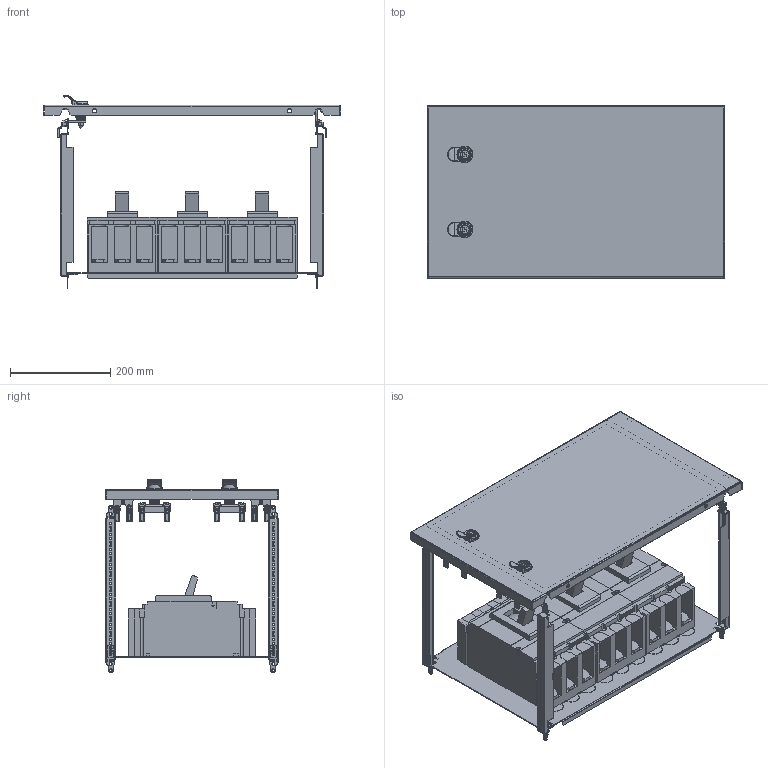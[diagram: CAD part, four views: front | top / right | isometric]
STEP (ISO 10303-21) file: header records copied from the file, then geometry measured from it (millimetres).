
FILE_DESCRIPTION(('CAx-IF Rec.Pracs.---Model Styling and Organization---1.2---2011-12-15','CAx-IF Rec.Pracs.---Geometric and Assembly Validation Properties---4.1---2014-06-16','CAx-IF Rec.Pracs.---PMI Polyline Presentation---2.0---2013-05-24'),'2;1');
FILE_NAME('R5PKEB7V62116 (F).stp','2021-07-29T02:34:31+03:00',(''),(''),'STEP Interface 4.4 by CT CoreTechnologie','3D_Evolution4.4 by CT CoreTechnologie','');
FILE_SCHEMA(('AUTOMOTIVE_DESIGN { 1 0 10303 214 1 1 1 1 }'));
Length unit declared in the file: millimetre
Products named in the file (1): R5PKEB7V62116 (F)
Bounding box: 594 x 345 x 386.9 mm (x, y, z)
Surface area: 1818291.8 mm2 (no closed solid volume)
Topology: 0 solids, 98 shells, 4224 faces, 11568 edges, 7544 vertices
Faces by surface type: plane 1922, cylinder 1391, bspline 911
Entity records: 150302 total; most frequent: CARTESIAN_POINT 43166, ORIENTED_EDGE 22944, DIRECTION 21736, EDGE_CURVE 11490, VERTEX_POINT 7550, AXIS2_PLACEMENT_3D 7378, VECTOR 6980, LINE 6980
